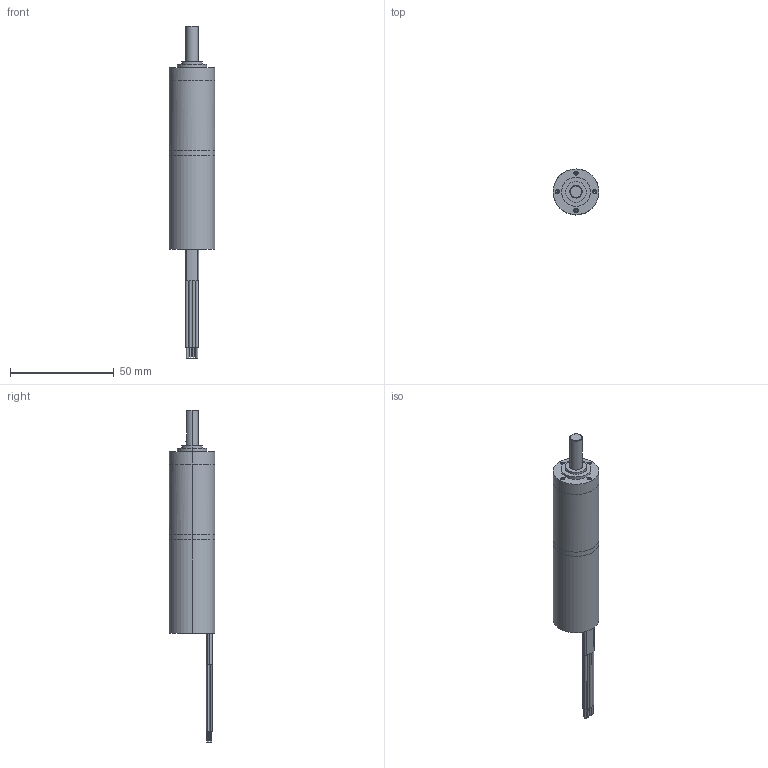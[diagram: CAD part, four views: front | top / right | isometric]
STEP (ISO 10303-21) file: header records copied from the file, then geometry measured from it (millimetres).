
FILE_DESCRIPTION (( 'STEP AP214' ), '1' );
FILE_NAME ('BLWRPG092S-R139.STEP', '2009-12-12T00:00:11', ( 'Tim Raines' ), ( 'Anaheim Automation' ), 'SwSTEP 2.0', 'SolidWorks 2010', '' );
FILE_SCHEMA (( 'AUTOMOTIVE_DESIGN' ));
Length unit declared in the file: millimetre
Products named in the file (1): BLWRPG092S-R139
Bounding box: 22 x 22 x 159.75 mm (x, y, z)
Volume: 34330.5 mm3; surface area: 9590.3 mm2
Topology: 2 solids, 2 shells, 160 faces, 358 edges, 218 vertices
Faces by surface type: cylinder 87, cone 37, plane 36
Entity records: 6218 total; most frequent: DIRECTION 853, CARTESIAN_POINT 761, ORIENTED_EDGE 684, AXIS2_PLACEMENT_3D 354, EDGE_CURVE 342, VERTEX_POINT 218, EDGE_LOOP 194, CIRCLE 193
